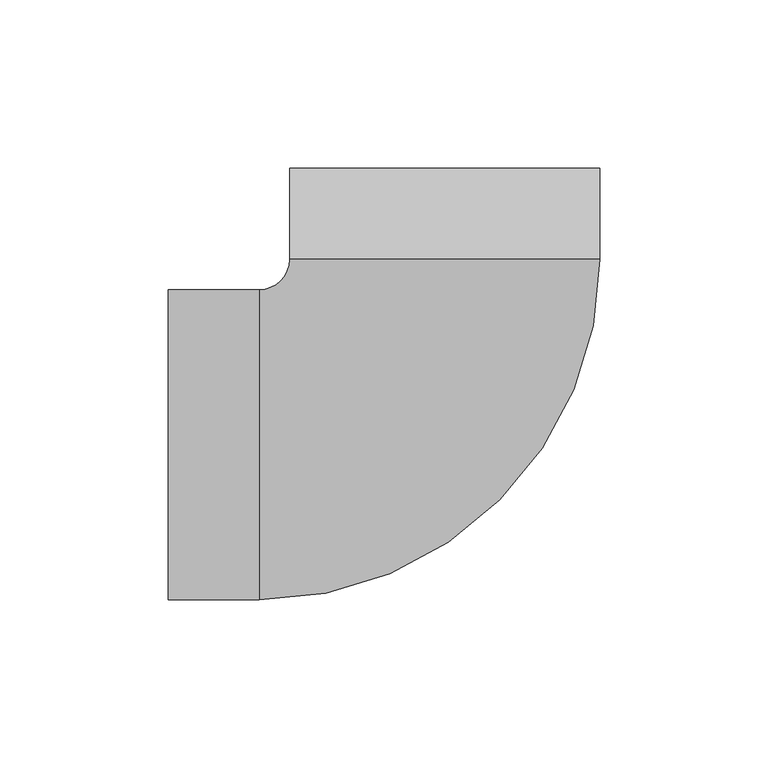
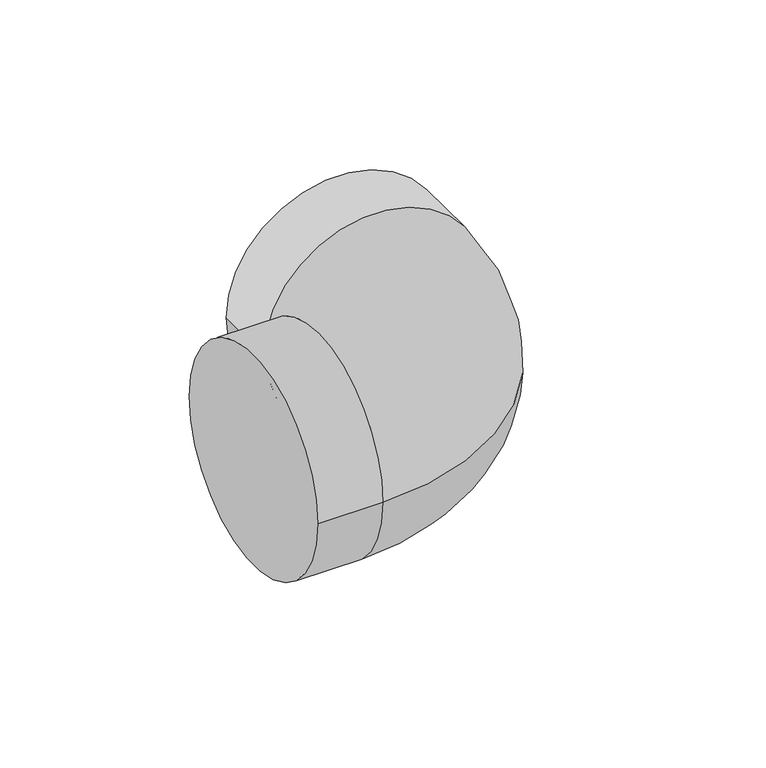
"""IFC4 building model written with IfcOpenShell, lengths in millimetres: pipe fitting geometry, PipeFitting_HTA_CPVC_Elbows : 75mm x 90°."""

from ifc_helpers import new_model, si_unit, point, frame, origin, place, context, project, spatial, circle_curve, ellipse_curve, trimmed, source, transform, mapped, element, save
from ifc_brep_helpers import plane_surface, cylinder_surface, revolved_surface, advanced_brep


def pipe_fitting_aedb859d(model_context):
    return source(origin(), model_context, "Body", "AdvancedBrep", [
        advanced_brep(
        [(-82.0, -46.0, 0.0), (-82.0, 46.0, 0.0), (-55.0, -46.0, 0.0), (-55.0, 46.0, 0.0), (-46.0, 55.0, 0.0), (46.0, 55.0, 0.0), (46.0, 82.0, 0.0), (-46.0, 82.0, 0.0)],
        [
            (0, 1, circle_curve(frame((-82.0, 0.0, 0.0), z_axis=(-1.0, 0.0, 0.0), x_axis=(0.0, 1.0, 0.0)), 46.0)),
            (1, 0, circle_curve(frame((-82.0, 0.0, 0.0), z_axis=(-1.0, 0.0, 0.0), x_axis=(0.0, 1.0, 0.0)), 46.0)),
            (0, 2),
            (2, 3, circle_curve(frame((-55.0, 0.0, 0.0), z_axis=(-1.0, 0.0, 0.0), x_axis=(0.0, 1.0, 0.0)), 46.0)),
            (3, 1),
            (3, 2, circle_curve(frame((-55.0, 0.0, 0.0), z_axis=(-1.0, 0.0, 0.0), x_axis=(0.0, 1.0, 0.0)), 46.0)),
            (4, 3, circle_curve(frame((-55.0, 55.0, 0.0), z_axis=(0.0, 0.0, -1.0), x_axis=(0.0, -1.0, 0.0)), 9.0)),
            (2, 5, circle_curve(frame((-55.0, 55.0, 0.0), z_axis=(0.0, 0.0, 1.0), x_axis=(0.0, -1.0, 0.0)), 101.0)),
            (5, 4, circle_curve(frame((0.0, 55.0, 0.0), z_axis=(0.0, -1.0, 0.0), x_axis=(-1.0, 0.0, 0.0)), 46.0)),
            (4, 5, circle_curve(frame((0.0, 55.0, 0.0), z_axis=(0.0, -1.0, 0.0), x_axis=(-1.0, 0.0, 0.0)), 46.0)),
            (6, 7, circle_curve(frame((0.0, 82.0, 0.0), z_axis=(0.0, 1.0, 0.0), x_axis=(-1.0, 0.0, 0.0)), 46.0)),
            (7, 6, circle_curve(frame((0.0, 82.0, 0.0), z_axis=(0.0, 1.0, 0.0), x_axis=(-1.0, 0.0, 0.0)), 46.0)),
            (5, 6),
            (7, 4),
        ],
        [
            plane_surface(frame((-82.0, 0.0, 0.0), z_axis=(-1.0, 0.0, 0.0), x_axis=(0.0, 0.0, 1.0))),
            cylinder_surface(frame((-82.0, 0.0, 0.0), z_axis=(-1.0, 0.0, 0.0), x_axis=(0.0, 1.0, 0.0)), 46.0),
            revolved_surface(trimmed(ellipse_curve(frame((-55.0, 0.0, 0.0), z_axis=(-1.0, 0.0, 0.0), x_axis=(0.0, 1.0, 0.0)), 46.0, 46.0), [point((-55.0, -46.0, 0.0))], [point((-55.0, 46.0, 0.0))], True, "CARTESIAN"), (-55.0, 55.0, 0.0), (0.0, 0.0, 1.0)),
            revolved_surface(trimmed(ellipse_curve(frame((-55.0, 0.0, 0.0), z_axis=(-1.0, 0.0, 0.0), x_axis=(0.0, 1.0, 0.0)), 46.0, 46.0), [point((-55.0, 46.0, 0.0))], [point((-55.0, -46.0, 0.0))], True, "CARTESIAN"), (-55.0, 55.0, 0.0), (0.0, 0.0, 1.0)),
            plane_surface(frame((0.0, 82.0, 0.0), z_axis=(0.0, 1.0, 0.0), x_axis=(0.0, 0.0, 1.0))),
            cylinder_surface(frame((0.0, 55.0, 0.0), z_axis=(0.0, -1.0, 0.0), x_axis=(-1.0, 0.0, 0.0)), 46.0),
        ],
        [
            (0, [[1, 2]]),
            (1, [[-1, 3, 4, 5]]),
            (1, [[-2, -5, 6, -3]]),
            (2, [[7, -4, 8, 9]]),
            (3, [[-8, -6, -7, 10]]),
            (4, [[11, 12]]),
            (5, [[-9, 13, -12, 14]]),
            (5, [[-10, -14, -11, -13]]),
        ],
    ),
    ])


if __name__ == "__main__":
    model = new_model("IFC4")
    model_context = context("Model", 3, world=origin())
    ifc_project = project(units=[si_unit("LENGTHUNIT", "METRE", prefix="MILLI")], contexts=[model_context])
    site = spatial("IfcSite", under=ifc_project)
    building = spatial("IfcBuilding", under=site)
    placement = place(None, origin())
    pipe_fitting_shape = pipe_fitting_aedb859d(model_context)
    element("IfcPipeFitting", 1, ObjectType="PipeFitting_HTA_CPVC_Elbows : 75mm x 90°", at=placement, inside=building, context=model_context, shape_type="MappedRepresentation", body=[
        mapped(pipe_fitting_shape, transform((0.0, 0.0, 0.0), x_axis=(1.0, 0.0, 0.0), y_axis=(0.0, 1.0, 0.0), z_axis=(0.0, 0.0, 1.0))),
    ])
    save(model, "model.ifc")
